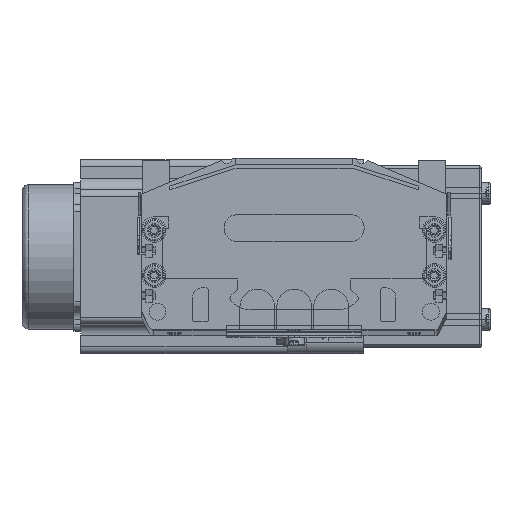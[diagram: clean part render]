
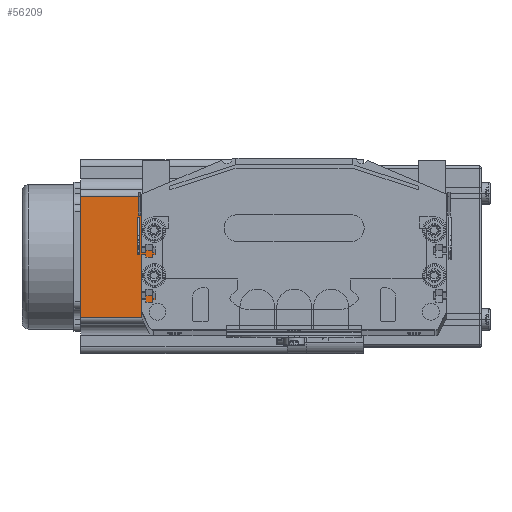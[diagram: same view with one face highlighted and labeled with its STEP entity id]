
A CAD part, top view. The second image highlights one B-rep face of the part: STEP entity #56209.
In plain terms, the highlighted planar face has unit normal (0, 0, 1) as drawn and (-1, 0, 0) by its records, which use the part's own axes.
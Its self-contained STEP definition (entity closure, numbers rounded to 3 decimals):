
#16927 = LINE ( 'NONE', #16931, #16930 ) ;
#16929 = DIRECTION ( 'NONE',  ( 0., 0., 1. ) ) ;
#16930 = VECTOR ( 'NONE', #16929, 1000. ) ;
#16931 = CARTESIAN_POINT ( 'NONE',  ( 0., 16.16, 91.5 ) ) ;
#16939 = DIRECTION ( 'NONE',  ( 0., -1., 0. ) ) ;
#16944 = CARTESIAN_POINT ( 'NONE',  ( 0., 16.16, 91.5 ) ) ;
#16957 = VECTOR ( 'NONE', #17006, 1000. ) ;
#16986 = DIRECTION ( 'NONE',  ( 0., 0., -1. ) ) ;
#16987 = FACE_OUTER_BOUND ( 'NONE', #56312, .T. ) ;
#17006 = DIRECTION ( 'NONE',  ( 0., 0., -1. ) ) ;
#17007 = CARTESIAN_POINT ( 'NONE',  ( 0., 69.74, 91.5 ) ) ;
#17010 = LINE ( 'NONE', #17007, #16957 ) ;
#17011 = AXIS2_PLACEMENT_3D ( 'NONE', #17061, #17070, #16986 ) ;
#17032 = VECTOR ( 'NONE', #16939, 1000. ) ;
#17061 = CARTESIAN_POINT ( 'NONE',  ( 0., 0., 91.5 ) ) ;
#17070 = DIRECTION ( 'NONE',  ( 1., 0., 0. ) ) ;
#17095 = CARTESIAN_POINT ( 'NONE',  ( 0., 0., 91.5 ) ) ;
#17096 = LINE ( 'NONE', #17095, #17032 ) ;
#17099 = PLANE ( 'NONE',  #17011 ) ;
#17102 = CARTESIAN_POINT ( 'NONE',  ( 0., 69.74, 91.5 ) ) ;
#17125 = CARTESIAN_POINT ( 'NONE',  ( 0., 16.16, 0. ) ) ;
#17192 = LINE ( 'NONE', #17270, #17263 ) ;
#17258 = CARTESIAN_POINT ( 'NONE',  ( 0., 69.74, 0. ) ) ;
#17263 = VECTOR ( 'NONE', #17269, 1000. ) ;
#17269 = DIRECTION ( 'NONE',  ( 0., -1., 0. ) ) ;
#17270 = CARTESIAN_POINT ( 'NONE',  ( 0., 0., 0. ) ) ;
#56200 = EDGE_CURVE ( 'NONE', #56210, #56316, #17010, .T. ) ;
#56208 = ORIENTED_EDGE ( 'NONE', *, *, #56200, .T. ) ;
#56209 = ADVANCED_FACE ( 'NONE', ( #16987 ), #17099, .F. ) ;
#56210 = VERTEX_POINT ( 'NONE', #17102 ) ;
#56224 = ORIENTED_EDGE ( 'NONE', *, *, #56239, .T. ) ;
#56239 = EDGE_CURVE ( 'NONE', #56265, #56267, #16927, .T. ) ;
#56242 = ORIENTED_EDGE ( 'NONE', *, *, #56272, .F. ) ;
#56265 = VERTEX_POINT ( 'NONE', #17125 ) ;
#56267 = VERTEX_POINT ( 'NONE', #16944 ) ;
#56272 = EDGE_CURVE ( 'NONE', #56210, #56267, #17096, .T. ) ;
#56273 = ORIENTED_EDGE ( 'NONE', *, *, #56303, .T. ) ;
#56303 = EDGE_CURVE ( 'NONE', #56316, #56265, #17192, .T. ) ;
#56312 = EDGE_LOOP ( 'NONE', ( #56273, #56224, #56242, #56208 ) ) ;
#56316 = VERTEX_POINT ( 'NONE', #17258 ) ;
